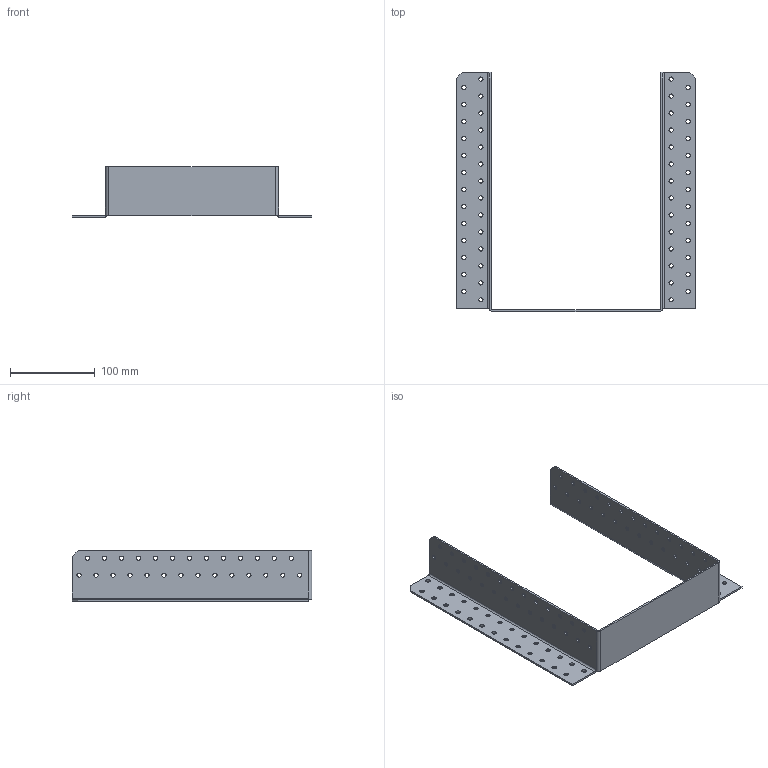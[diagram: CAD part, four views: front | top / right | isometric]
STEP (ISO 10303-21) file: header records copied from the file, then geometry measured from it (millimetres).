
FILE_DESCRIPTION (( 'STEP AP203' ), '1' );
FILE_NAME ('405262.STEP', '2021-04-17T18:04:56', ( '' ), ( '' ), 'SwSTEP 2.0', 'SolidWorks 2013', '' );
FILE_SCHEMA (( 'CONFIG_CONTROL_DESIGN' ));
Length unit declared in the file: millimetre
Products named in the file (1): 405262
Bounding box: 282 x 282 x 60 mm (x, y, z)
Volume: 128048.3 mm3; surface area: 135005.2 mm2
Topology: 1 solids, 1 shells, 260 faces, 744 edges, 486 vertices
Faces by surface type: cylinder 224, plane 36
Entity records: 9227 total; most frequent: DIRECTION 1716, CARTESIAN_POINT 1491, ORIENTED_EDGE 1488, EDGE_CURVE 744, AXIS2_PLACEMENT_3D 711, VERTEX_POINT 486, EDGE_LOOP 476, CIRCLE 450
